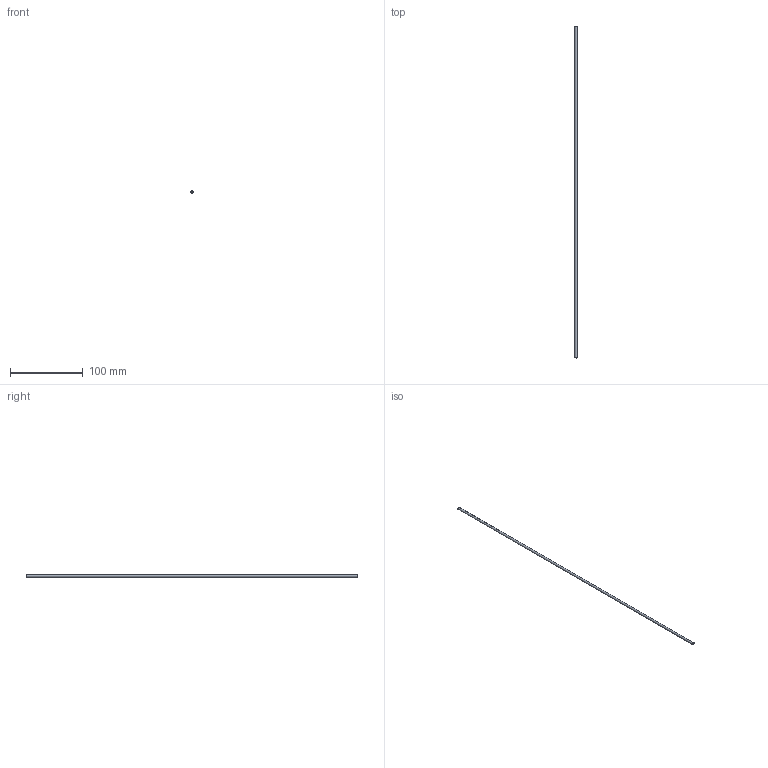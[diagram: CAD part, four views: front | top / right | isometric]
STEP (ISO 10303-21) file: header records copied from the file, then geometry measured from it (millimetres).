
FILE_DESCRIPTION(/* description */ (''),/* implementation_level */ '2;1');
FILE_NAME(/* name */ 'C:/Users/drich/Desktop/125T-18 v1.step',/* time_stamp */ '2019-12-27T17:25:04-06:00',/* author */ (''),/* organization */ (''),/* preprocessor_version */ 'ST-DEVELOPER v18',/* originating_system */ 'Autodesk Translation Framework v8.12.0.6',/* authorisation */ '');
FILE_SCHEMA (('AUTOMOTIVE_DESIGN { 1 0 10303 214 3 1 1 }'));
Length unit declared in the file: inch
Products named in the file (1): 125T-18
Bounding box: 3.1 x 457.2 x 3.1 mm (x, y, z)
Volume: 2580 mm3; surface area: 6681.3 mm2
Topology: 1 solids, 1 shells, 6 faces, 14 edges, 10 vertices
Faces by surface type: cone 2, cylinder 2, plane 2
Full cylindrical faces by diameter (mm): 1.549 x1, 3.096 x1
Entity records: 230 total; most frequent: DIRECTION 38, CARTESIAN_POINT 31, ORIENTED_EDGE 28, AXIS2_PLACEMENT_3D 17, EDGE_CURVE 14, CIRCLE 10, VERTEX_POINT 10, EDGE_LOOP 8
